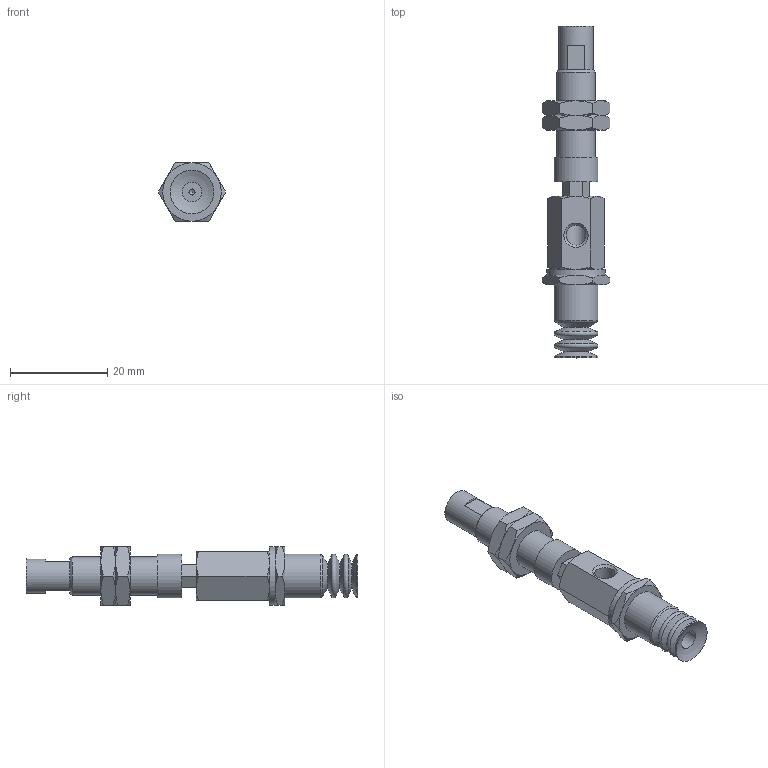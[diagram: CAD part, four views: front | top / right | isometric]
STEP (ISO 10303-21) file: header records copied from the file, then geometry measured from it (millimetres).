
FILE_DESCRIPTION(('STEP AP203'),'1');
FILE_NAME('.stp','2025-04-04T00:37:49',(' '),(' '),'Spatial InterOp 3D',' ',' ');
FILE_SCHEMA(('CONFIG_CONTROL_DESIGN'));
Length unit declared in the file: millimetre
Products named in the file (7): BNABPCYH-10-3-※; Adapter_napc-10-T; Connector_h-10-3; Nut napc_h-10-3; NAPCTH-10-3-FBODY; NAPCTH-10-3-MBODY; BPCG-10-※
Assembly tree (7 placements, depth 2):
  BNABPCYH-10-3-※
    Adapter_napc-10-T
    Connector_h-10-3
    Nut napc_h-10-3  x2
    NAPCTH-10-3-FBODY
    NAPCTH-10-3-MBODY
    BPCG-10-※
Bounding box: 13.86 x 68.2 x 12 mm (x, y, z)
Volume: 4342.9 mm3; surface area: 4838.3 mm2
Topology: 7 solids, 7 shells, 169 faces, 359 edges, 213 vertices
Faces by surface type: plane 71, cone 69, cylinder 19, torus 8, sphere 2
Full cylindrical faces by diameter (mm): 1.25 x1, 4 x1, 4.134 x3, 5 x6, 7 x1, 7.188 x2, 8 x1, 9 x3, 12 x1
Entity records: 4360 total; most frequent: CARTESIAN_POINT 1131, DIRECTION 596, ORIENTED_EDGE 522, EDGE_CURVE 261, AXIS2_PLACEMENT_3D 257, EDGE_LOOP 210, VERTEX_POINT 182, FACE_OUTER_BOUND 174
